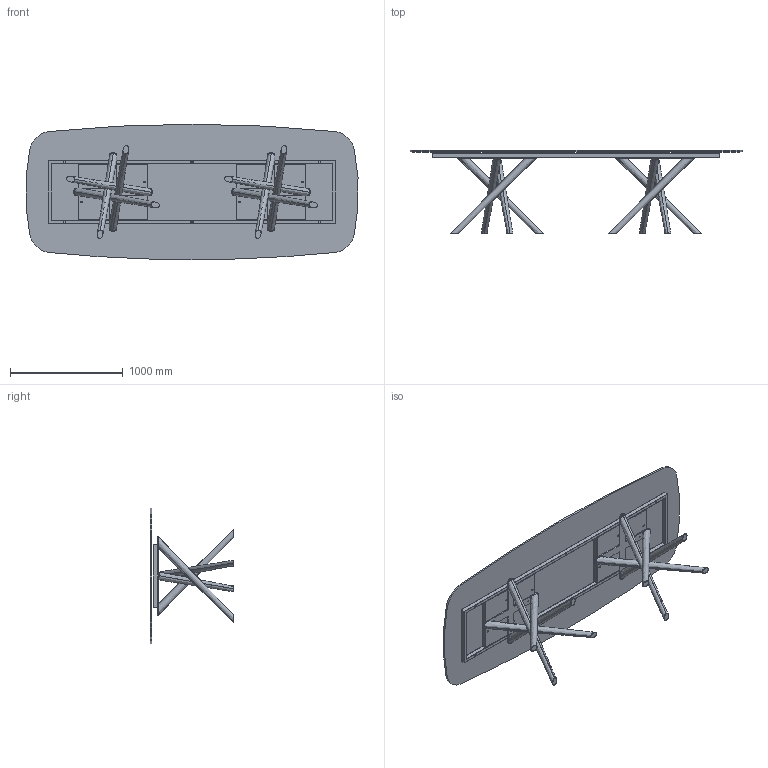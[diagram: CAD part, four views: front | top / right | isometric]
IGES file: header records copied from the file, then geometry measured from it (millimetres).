
Start section: SolidWorks IGES file using analytic representation for surfaces
Global section: file name: Y:\eforma\TECNICO\SOLIDWORKS\E-FORMA\1-TAVOLI\BALY\02 parts\BA50G.IGS; native system: SolidWorks 2022; preprocessor: SolidWorks 2022; author: eforma.tech; date: 240808.081050; units: millimetre
Bounding box: 2941.59 x 740 x 1200 mm (x, y, z)
Volume: 58925389.3 mm3; surface area: 13112943.9 mm2
Topology: 22 solids, 22 shells, 561 faces, 1377 edges, 854 vertices
Faces by surface type: revolution 275, plane 270, bspline 16
